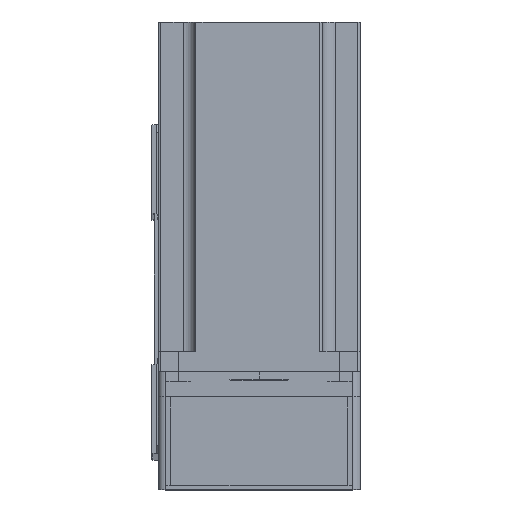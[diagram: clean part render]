
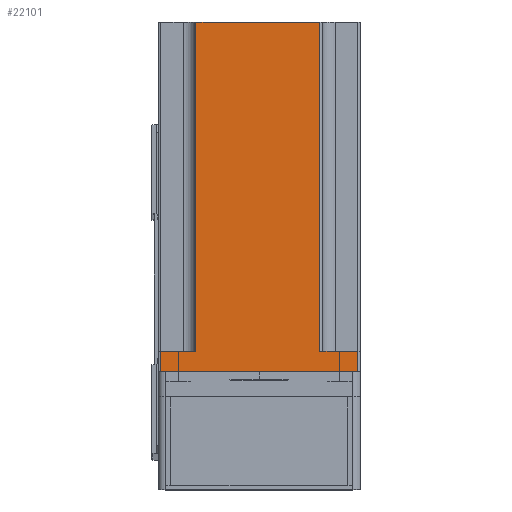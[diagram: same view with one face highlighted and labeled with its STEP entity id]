
A CAD part, top view. The second image highlights one B-rep face of the part: STEP entity #22101.
In plain terms, the highlighted planar face has unit normal (0, 0, 1) as drawn and (-1, 0, 0) by its records, which use the part's own axes.
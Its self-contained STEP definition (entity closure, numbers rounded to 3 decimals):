
#2562 = VECTOR ( 'NONE', #48263, 1000. ) ;
#5351 = VERTEX_POINT ( 'NONE', #46533 ) ;
#6251 = VERTEX_POINT ( 'NONE', #32511 ) ;
#6593 = FACE_OUTER_BOUND ( 'NONE', #37156, .T. ) ;
#8445 = CARTESIAN_POINT ( 'NONE',  ( -40., -24., 8. ) ) ;
#9136 = EDGE_CURVE ( 'NONE', #13575, #6251, #12822, .T. ) ;
#9230 = CARTESIAN_POINT ( 'NONE',  ( -40., 25., 8. ) ) ;
#12108 = VERTEX_POINT ( 'NONE', #8445 ) ;
#12822 = LINE ( 'NONE', #46038, #34551 ) ;
#13575 = VERTEX_POINT ( 'NONE', #21318 ) ;
#15674 = CARTESIAN_POINT ( 'NONE',  ( -40., -40., 138.3 ) ) ;
#15756 = EDGE_CURVE ( 'NONE', #12108, #16570, #27970, .T. ) ;
#15777 = DIRECTION ( 'NONE',  ( 0., -1., 0. ) ) ;
#16014 = EDGE_CURVE ( 'NONE', #35381, #5351, #52561, .T. ) ;
#16392 = VECTOR ( 'NONE', #42960, 1000. ) ;
#16570 = VERTEX_POINT ( 'NONE', #21605 ) ;
#18220 = VECTOR ( 'NONE', #43402, 1000. ) ;
#19609 = LINE ( 'NONE', #43879, #18220 ) ;
#20642 = ORIENTED_EDGE ( 'NONE', *, *, #42948, .F. ) ;
#21318 = CARTESIAN_POINT ( 'NONE',  ( -40., 39., 8. ) ) ;
#21605 = CARTESIAN_POINT ( 'NONE',  ( -40., -24., 138.3 ) ) ;
#22101 = ADVANCED_FACE ( 'NONE', ( #6593 ), #43910, .F. ) ;
#22133 = ORIENTED_EDGE ( 'NONE', *, *, #23612, .F. ) ;
#22919 = CARTESIAN_POINT ( 'NONE',  ( -40., -39., 0. ) ) ;
#23612 = EDGE_CURVE ( 'NONE', #26214, #16570, #34183, .T. ) ;
#23968 = LINE ( 'NONE', #48778, #44418 ) ;
#26214 = VERTEX_POINT ( 'NONE', #40372 ) ;
#27744 = EDGE_CURVE ( 'NONE', #35873, #26214, #23968, .T. ) ;
#27970 = LINE ( 'NONE', #43031, #16392 ) ;
#30906 = LINE ( 'NONE', #46353, #54271 ) ;
#32511 = CARTESIAN_POINT ( 'NONE',  ( -40., 39., 0. ) ) ;
#33115 = ORIENTED_EDGE ( 'NONE', *, *, #16014, .T. ) ;
#33538 = EDGE_CURVE ( 'NONE', #35873, #13575, #30906, .T. ) ;
#34183 = LINE ( 'NONE', #15674, #56231 ) ;
#34551 = VECTOR ( 'NONE', #46402, 1000. ) ;
#35381 = VERTEX_POINT ( 'NONE', #22919 ) ;
#35873 = VERTEX_POINT ( 'NONE', #9230 ) ;
#36262 = DIRECTION ( 'NONE',  ( 0., 0., 1. ) ) ;
#36497 = CARTESIAN_POINT ( 'NONE',  ( -40., -39., 138.3 ) ) ;
#36890 = ORIENTED_EDGE ( 'NONE', *, *, #9136, .T. ) ;
#37007 = EDGE_CURVE ( 'NONE', #6251, #35381, #37239, .T. ) ;
#37156 = EDGE_LOOP ( 'NONE', ( #20642, #56614, #22133, #45399, #37983, #36890, #41907, #33115 ) ) ;
#37239 = LINE ( 'NONE', #48322, #2562 ) ;
#37983 = ORIENTED_EDGE ( 'NONE', *, *, #33538, .T. ) ;
#40372 = CARTESIAN_POINT ( 'NONE',  ( -40., 25., 138.3 ) ) ;
#40836 = VECTOR ( 'NONE', #36262, 1000. ) ;
#41907 = ORIENTED_EDGE ( 'NONE', *, *, #37007, .T. ) ;
#42792 = DIRECTION ( 'NONE',  ( 0., 0., -1. ) ) ;
#42870 = DIRECTION ( 'NONE',  ( 1., 0., 0. ) ) ;
#42948 = EDGE_CURVE ( 'NONE', #12108, #5351, #19609, .T. ) ;
#42960 = DIRECTION ( 'NONE',  ( 0., 0., 1. ) ) ;
#42988 = CARTESIAN_POINT ( 'NONE',  ( -40., -40., 138.3 ) ) ;
#43031 = CARTESIAN_POINT ( 'NONE',  ( -40., -24., 138.3 ) ) ;
#43402 = DIRECTION ( 'NONE',  ( 0., -1., 0. ) ) ;
#43879 = CARTESIAN_POINT ( 'NONE',  ( -40., -40., 8. ) ) ;
#43910 = PLANE ( 'NONE',  #55652 ) ;
#44418 = VECTOR ( 'NONE', #48467, 1000. ) ;
#45399 = ORIENTED_EDGE ( 'NONE', *, *, #27744, .F. ) ;
#46038 = CARTESIAN_POINT ( 'NONE',  ( -40., 39., 138.3 ) ) ;
#46353 = CARTESIAN_POINT ( 'NONE',  ( -40., 40., 8. ) ) ;
#46402 = DIRECTION ( 'NONE',  ( 0., 0., -1. ) ) ;
#46533 = CARTESIAN_POINT ( 'NONE',  ( -40., -39., 8. ) ) ;
#48262 = DIRECTION ( 'NONE',  ( 0., 1., 0. ) ) ;
#48263 = DIRECTION ( 'NONE',  ( 0., -1., 0. ) ) ;
#48322 = CARTESIAN_POINT ( 'NONE',  ( -40., -40., 0. ) ) ;
#48467 = DIRECTION ( 'NONE',  ( 0., 0., 1. ) ) ;
#48778 = CARTESIAN_POINT ( 'NONE',  ( -40., 25., 8. ) ) ;
#52561 = LINE ( 'NONE', #36497, #40836 ) ;
#54271 = VECTOR ( 'NONE', #48262, 1000. ) ;
#55652 = AXIS2_PLACEMENT_3D ( 'NONE', #42988, #42870, #42792 ) ;
#56231 = VECTOR ( 'NONE', #15777, 1000. ) ;
#56614 = ORIENTED_EDGE ( 'NONE', *, *, #15756, .T. ) ;
